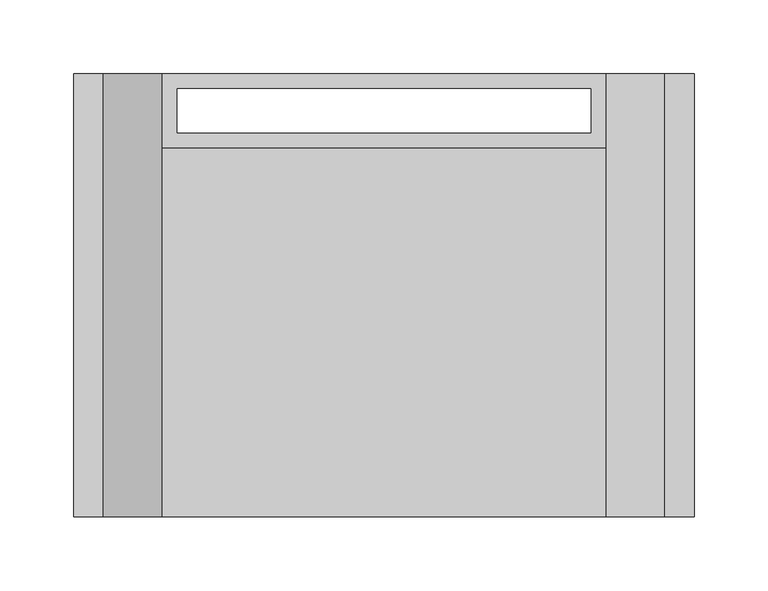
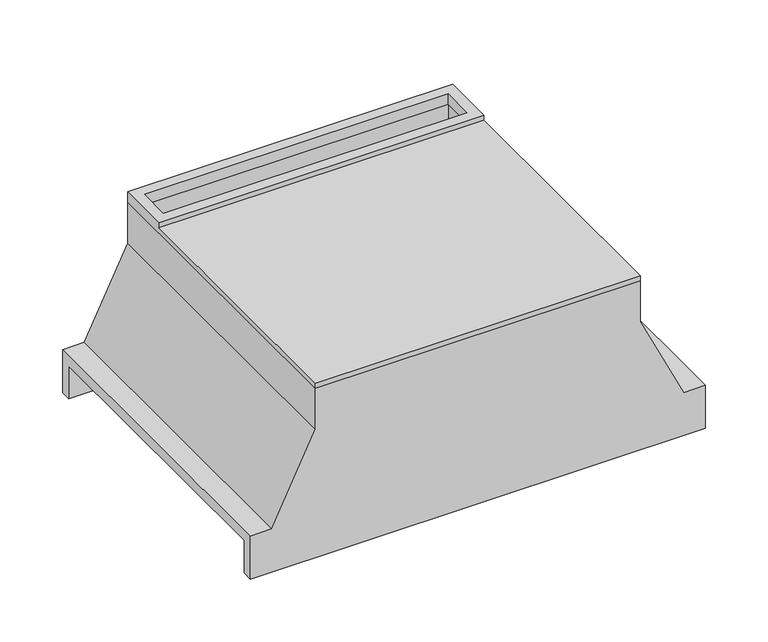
"""IFC4 building model written with IfcOpenShell, lengths in millimetres: cable carrier fitting geometry, BAKS_Universal tee : TRUNJ_H42."""

from ifc_helpers import new_model, si_unit, origin, place, context, project, spatial, faceted_brep, source, transform, mapped, element, save


def cable_carrier_fitting_7d5806c9(model_context):
    return source(origin(), model_context, "Body", "Brep", [
        faceted_brep([(-150.0, -150.0, 149.0), (150.0, -150.0, 149.0), (150.0, 100.0, 149.0), (-150.0, 100.0, 149.0), (-150.0, -150.0, 144.0), (-150.0, 150.0, 144.0), (150.0, 150.0, 144.0), (150.0, -150.0, 144.0), (-140.0, 110.0, 144.0), (140.0, 110.0, 144.0), (140.0, 140.0, 144.0), (-140.0, 140.0, 144.0), (150.0, 150.0, 154.0), (150.0, 100.0, 154.0), (-150.0, 150.0, 154.0), (-150.0, 100.0, 154.0), (140.0, 110.0, 154.0), (-140.0, 110.0, 154.0), (-140.0, 140.0, 154.0), (140.0, 140.0, 154.0)], [[[0, 1, 2, 3]], [[4, 5, 6, 7], [8, 9, 10, 11]], [[1, 0, 4, 7]], [[7, 6, 12, 13, 2, 1]], [[6, 5, 14, 12]], [[5, 4, 0, 3, 15, 14]], [[15, 13, 12, 14], [16, 17, 18, 19]], [[13, 15, 3, 2]], [[16, 9, 8, 17]], [[9, 16, 19, 10]], [[10, 19, 18, 11]], [[17, 8, 11, 18]]]),
        faceted_brep([(-210.0, -150.0, 21.0), (-210.0, -150.0, -21.0), (210.0, -150.0, -21.0), (210.0, -150.0, 21.0), (190.0, -150.0, 21.0), (150.0, -150.0, 104.0), (150.0, -150.0, 144.0), (-150.0, -150.0, 144.0), (-150.0, -150.0, 104.0), (-190.0, -150.0, 21.0), (-210.0, 150.0, 21.0), (-190.0, 150.0, 21.0), (-150.0, 150.0, 104.0), (-150.0, 150.0, 144.0), (150.0, 150.0, 144.0), (150.0, 150.0, 104.0), (190.0, 150.0, 21.0), (210.0, 150.0, 21.0), (210.0, 150.0, -21.0), (-210.0, 150.0, -21.0), (-210.0, 140.0, -21.0), (-210.0, 140.0, 11.0), (-210.0, -140.0, 11.0), (-210.0, -140.0, -21.0), (210.0, -140.0, -21.0), (210.0, 140.0, -21.0), (210.0, -140.0, 11.0), (210.0, 140.0, 11.0), (-140.0, 140.0, 144.0), (140.0, 140.0, 144.0), (140.0, -140.0, 144.0), (-140.0, -140.0, 144.0), (180.0, 140.0, 11.0), (140.0, 140.0, 104.0), (-140.0, 140.0, 104.0), (-180.0, 140.0, 11.0), (-140.0, -140.0, 104.0), (-180.0, -140.0, 11.0), (140.0, -140.0, 104.0), (180.0, -140.0, 11.0)], [[[0, 1, 2, 3, 4, 5, 6, 7, 8, 9]], [[10, 11, 12, 13, 14, 15, 16, 17, 18, 19]], [[1, 0, 10, 19, 20, 21, 22, 23]], [[2, 1, 23, 24]], [[19, 18, 25, 20]], [[3, 2, 24, 26, 27, 25, 18, 17]], [[4, 3, 17, 16]], [[5, 4, 16, 15]], [[6, 5, 15, 14]], [[7, 6, 14, 13], [28, 29, 30, 31]], [[8, 7, 13, 12]], [[9, 8, 12, 11]], [[0, 9, 11, 10]], [[32, 33, 29, 28, 34, 35, 21, 20, 25, 27]], [[35, 34, 36, 37]], [[37, 36, 31, 30, 38, 39, 26, 24, 23, 22]], [[33, 32, 39, 38]], [[34, 28, 31, 36]], [[29, 33, 38, 30]], [[21, 35, 37, 22]], [[32, 27, 26, 39]]]),
    ])


if __name__ == "__main__":
    model = new_model("IFC4")
    model_context = context("Model", 3, world=origin())
    ifc_project = project(units=[si_unit("LENGTHUNIT", "METRE", prefix="MILLI")], contexts=[model_context])
    site = spatial("IfcSite", under=ifc_project)
    building = spatial("IfcBuilding", under=site)
    placement = place(None, origin())
    cable_carrier_fitting_shape = cable_carrier_fitting_7d5806c9(model_context)
    element("IfcCableCarrierFitting", 1, ObjectType="BAKS_Universal tee : TRUNJ_H42", at=placement, inside=building, context=model_context, shape_type="MappedRepresentation", body=[
        mapped(cable_carrier_fitting_shape, transform((0.0, 0.0, 0.0), x_axis=(1.0, 0.0, 0.0), y_axis=(0.0, 1.0, 0.0), z_axis=(0.0, 0.0, 1.0))),
    ])
    save(model, "model.ifc")
